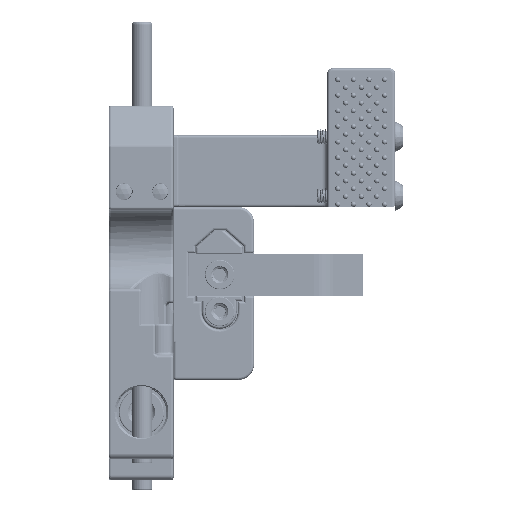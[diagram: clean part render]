
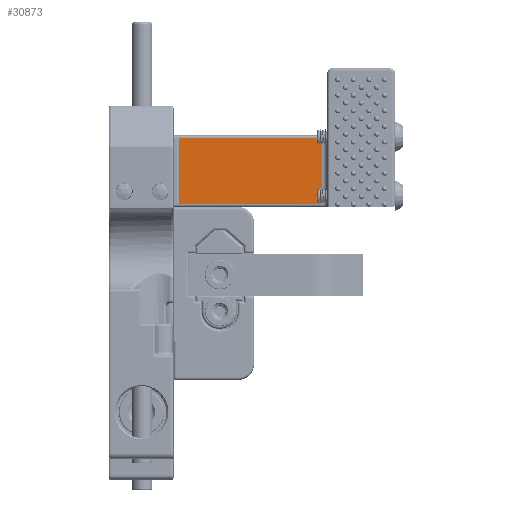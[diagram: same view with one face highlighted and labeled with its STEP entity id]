
A CAD part, top view. The second image highlights one B-rep face of the part: STEP entity #30873.
In plain terms, the highlighted planar face has unit normal (0, 0, 1).
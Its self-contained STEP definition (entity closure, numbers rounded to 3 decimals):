
#5667=FACE_OUTER_BOUND('',#7589,.T.);
#7589=EDGE_LOOP('',(#24373,#24374,#24375,#24376));
#9636=LINE('',#74052,#11401);
#9637=LINE('',#74055,#11402);
#9638=LINE('',#74060,#11403);
#9639=LINE('',#74068,#11404);
#11401=VECTOR('',#39430,10.);
#11402=VECTOR('',#39433,10.);
#11403=VECTOR('',#39440,10.);
#11404=VECTOR('',#39451,10.);
#13628=VERTEX_POINT('',#74036);
#13630=VERTEX_POINT('',#74047);
#13631=VERTEX_POINT('',#74054);
#13632=VERTEX_POINT('',#74058);
#17491=EDGE_CURVE('',#13630,#13628,#9636,.F.);
#17492=EDGE_CURVE('',#13628,#13631,#9637,.T.);
#17495=EDGE_CURVE('',#13632,#13630,#9638,.T.);
#17499=EDGE_CURVE('',#13631,#13632,#9639,.T.);
#24373=ORIENTED_EDGE('',*,*,#17495,.F.);
#24374=ORIENTED_EDGE('',*,*,#17499,.F.);
#24375=ORIENTED_EDGE('',*,*,#17492,.F.);
#24376=ORIENTED_EDGE('',*,*,#17491,.F.);
#29884=PLANE('',#33764);
#30873=ADVANCED_FACE('',(#5667),#29884,.T.);
#33764=AXIS2_PLACEMENT_3D('',#74085,#39457,#39458);
#39430=DIRECTION('',(0.,-1.,0.));
#39433=DIRECTION('',(1.,0.,0.));
#39440=DIRECTION('',(-1.,0.,0.));
#39451=DIRECTION('',(0.,-1.,0.));
#39457=DIRECTION('center_axis',(0.,0.,
1.));
#39458=DIRECTION('ref_axis',(0.,1.,0.));
#74036=CARTESIAN_POINT('',(105.087,147.287,-10.649));
#74047=CARTESIAN_POINT('',(105.087,134.48,-10.647));
#74052=CARTESIAN_POINT('',(105.087,133.98,-10.647));
#74054=CARTESIAN_POINT('',(132.612,147.287,-10.649));
#74055=CARTESIAN_POINT('',(146.625,147.287,-10.649));
#74058=CARTESIAN_POINT('',(132.612,134.48,-10.647));
#74060=CARTESIAN_POINT('',(105.087,134.48,-10.647));
#74068=CARTESIAN_POINT('',(132.612,140.656,-10.648));
#74085=CARTESIAN_POINT('Origin',(146.625,133.98,-10.647));
